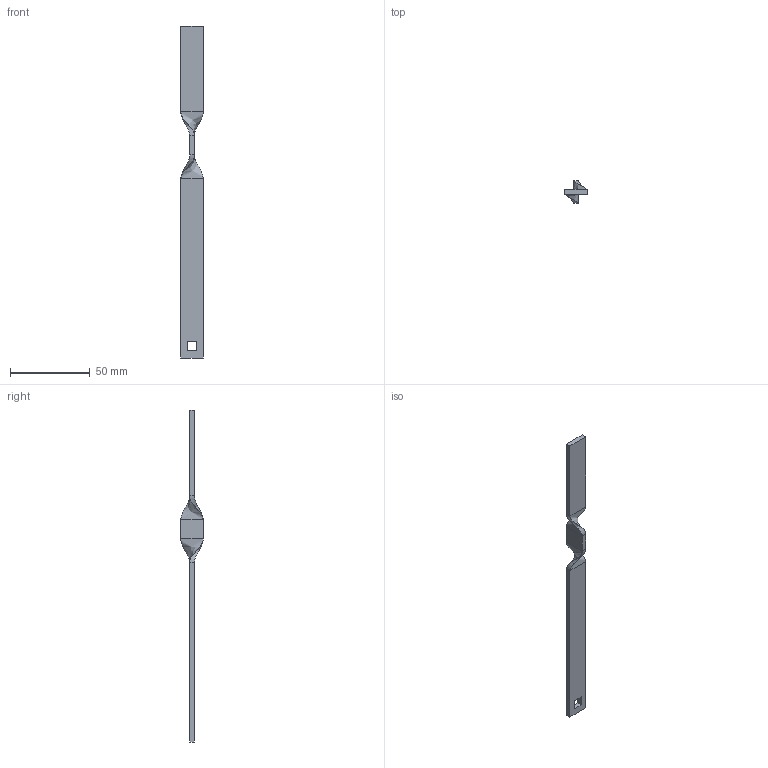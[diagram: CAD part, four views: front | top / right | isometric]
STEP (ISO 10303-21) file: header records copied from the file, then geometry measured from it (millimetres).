
FILE_DESCRIPTION (( 'STEP AP214' ), '1' );
FILE_NAME ('PK190-210.STEP', '2016-08-18T09:33:13', ( 'RST-Dolba' ), ( '' ), 'SwSTEP 2.0', 'SolidWorks 2015', '' );
FILE_SCHEMA (( 'AUTOMOTIVE_DESIGN' ));
Length unit declared in the file: millimetre
Products named in the file (1): PK190-210
Bounding box: 14 x 14 x 208.5 mm (x, y, z)
Volume: 8325.9 mm3; surface area: 7081.2 mm2
Topology: 1 solids, 1 shells, 26 faces, 56 edges, 32 vertices
Faces by surface type: plane 18, bspline 8
Entity records: 846 total; most frequent: CARTESIAN_POINT 291, ORIENTED_EDGE 112, DIRECTION 86, EDGE_CURVE 56, LINE 48, VECTOR 48, VERTEX_POINT 32, EDGE_LOOP 28
